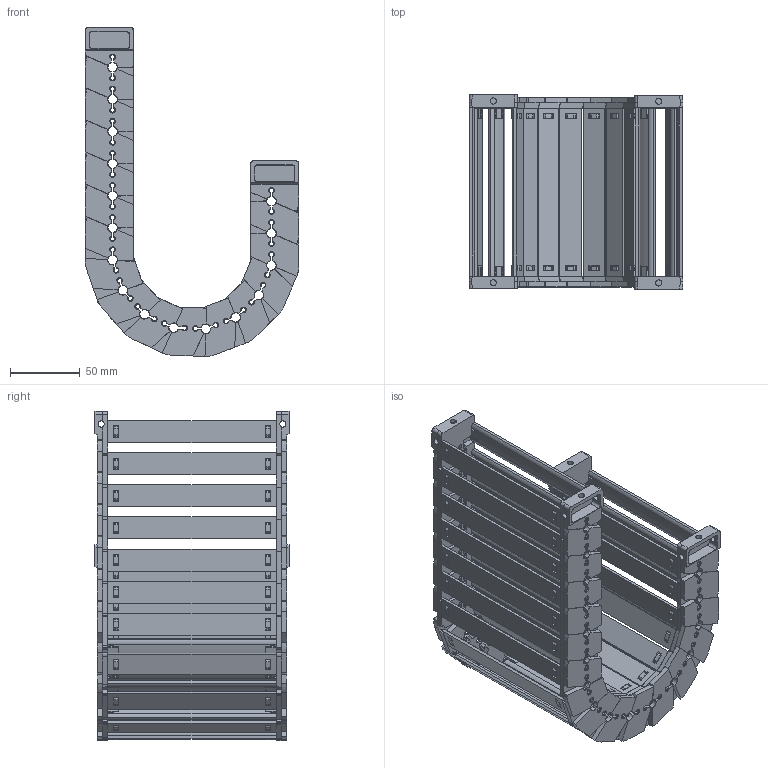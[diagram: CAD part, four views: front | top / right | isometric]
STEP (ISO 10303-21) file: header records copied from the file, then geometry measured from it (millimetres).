
FILE_DESCRIPTION((''),'2;1');
FILE_NAME('JY-28X120-R55_ASM','2026-03-26T08:04:12',('admin'),(''),'CREO PARAMETRIC BY PTC INC, 2021023','CREO PARAMETRIC BY PTC INC, 2021023','');
FILE_SCHEMA(('CONFIG_CONTROL_DESIGN'));
Length unit declared in the file: millimetre
Products named in the file (11): 28XL-L; 25-35XL-YP; 28XL-R; ASM0001_ASM; 28-LTT-A-L; 28-LTT-A-R; 28XL-LTT-A_ASM; 28-LTT-B-L; 28-LTT-B-R; 28XL-LTT-B_ASM; JY-28X120-R55_ASM
Assembly tree (29 placements, depth 3):
  JY-28X120-R55_ASM
    ASM0001_ASM  x15
      28XL-L
      25-35XL-YP
      28XL-R
    28XL-LTT-A_ASM
      28-LTT-A-L
      25-35XL-YP  x2
      28-LTT-A-R
    28XL-LTT-B_ASM
      28-LTT-B-L
      25-35XL-YP  x2
      28-LTT-B-R
Bounding box: 153.11 x 139 x 235.62 mm (x, y, z)
Volume: 382216 mm3; surface area: 275346.4 mm2
Topology: 68 solids, 68 shells, 5486 faces, 16300 edges, 10882 vertices
Faces by surface type: plane 3597, cone 973, cylinder 796, bspline 120
Entity records: 29071 total; most frequent: CARTESIAN_POINT 9487, ORIENTED_EDGE 4352, DIRECTION 3649, EDGE_CURVE 2176, VERTEX_POINT 1454, VECTOR 1365, LINE 1365, AXIS2_PLACEMENT_3D 1142
